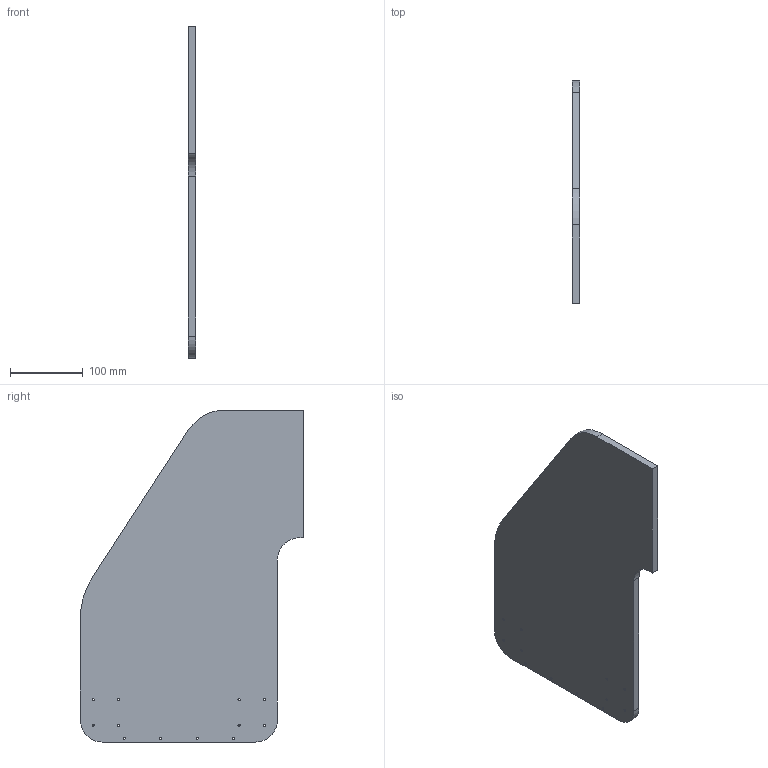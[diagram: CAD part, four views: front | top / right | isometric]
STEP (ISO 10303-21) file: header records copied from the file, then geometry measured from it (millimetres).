
FILE_DESCRIPTION(('CATIA V5 STEP Exchange'),'2;1');
FILE_NAME('E:\CNC\CNC_REV3_PLAN_FINAL\FICHIERS POUR USINAGE DES PIECES PORTIQUE\PIECES_AVEC_TROU\AXE_Y_COTE.stp','2016-09-06T20:11:49+00:00',('none'),('none'),'CATIA Version 5 Release 19 SP 2 (IN-10)','CATIA V5 STEP AP203','none');
FILE_SCHEMA(('CONFIG_CONTROL_DESIGN'));
Length unit declared in the file: millimetre
Products named in the file (1): Gauche_Axe_Y
Bounding box: 10 x 306 x 455 mm (x, y, z)
Volume: 1074708.9 mm3; surface area: 229664.9 mm2
Topology: 1 solids, 1 shells, 38 faces, 108 edges, 72 vertices
Faces by surface type: cylinder 29, plane 9
Entity records: 1242 total; most frequent: ORIENTED_EDGE 216, CARTESIAN_POINT 207, DIRECTION 160, EDGE_CURVE 108, AXIS2_PLACEMENT_3D 85, VERTEX_POINT 72, EDGE_LOOP 62, CIRCLE 58
